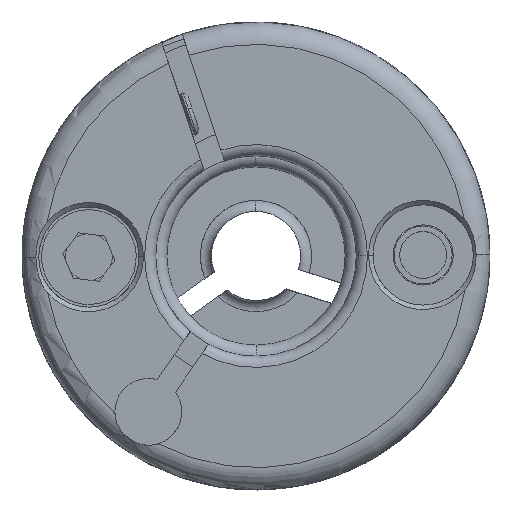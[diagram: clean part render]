
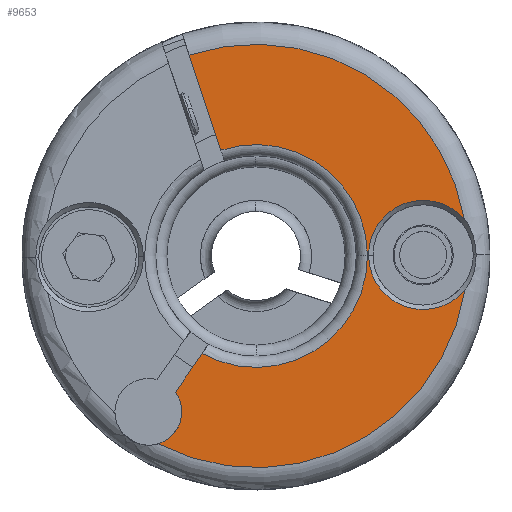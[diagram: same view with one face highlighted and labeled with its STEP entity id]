
A CAD part, front view. The second image highlights one B-rep face of the part: STEP entity #9653.
In plain terms, the highlighted planar face has unit normal (0, -1, 0).
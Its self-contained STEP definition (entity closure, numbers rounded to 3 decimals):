
#199 = CARTESIAN_POINT ( 'NONE',  ( -8.531, -13.313, -2.29 ) ) ;
#200 = CARTESIAN_POINT ( 'NONE',  ( -9.731, -13.313, -4.026 ) ) ;
#1130 = CIRCLE ( 'NONE', #1157, 2.45 ) ;
#1135 = DIRECTION ( 'NONE',  ( 0.568, 0., 0.823 ) ) ;
#1136 = VECTOR ( 'NONE', #1135, 1000. ) ;
#1137 = CARTESIAN_POINT ( 'NONE',  ( -14.016, -13.313, -10.229 ) ) ;
#1138 = LINE ( 'NONE', #1137, #1136 ) ;
#1139 = DIRECTION ( 'NONE',  ( -0.315, 0., 0.949 ) ) ;
#1140 = VECTOR ( 'NONE', #1139, 1000. ) ;
#1141 = CARTESIAN_POINT ( 'NONE',  ( -1.946, -13.313, -10.471 ) ) ;
#1142 = LINE ( 'NONE', #1141, #1140 ) ;
#1143 = DIRECTION ( 'NONE',  ( 1., 0., 0.006 ) ) ;
#1144 = DIRECTION ( 'NONE',  ( 0., 1., 0. ) ) ;
#1145 = CARTESIAN_POINT ( 'NONE',  ( -10.946, -13.313, -4.906 ) ) ;
#1146 = AXIS2_PLACEMENT_3D ( 'NONE', #1145, #1144, #1143 ) ;
#1147 = CIRCLE ( 'NONE', #1146, 1.5 ) ;
#1148 = DIRECTION ( 'NONE',  ( 1., 0., 0.006 ) ) ;
#1149 = DIRECTION ( 'NONE',  ( 0., 1., 0. ) ) ;
#1150 = CARTESIAN_POINT ( 'NONE',  ( -6.114, -13.313, 2.088 ) ) ;
#1151 = AXIS2_PLACEMENT_3D ( 'NONE', #1150, #1149, #1148 ) ;
#1152 = PLANE ( 'NONE',  #1151 ) ;
#1153 = FACE_OUTER_BOUND ( 'NONE', #9654, .T. ) ;
#1154 = DIRECTION ( 'NONE',  ( 1., 0., 0.006 ) ) ;
#1155 = DIRECTION ( 'NONE',  ( 0., 1., 0. ) ) ;
#1156 = CARTESIAN_POINT ( 'NONE',  ( 1.386, -13.313, 2.135 ) ) ;
#1157 = AXIS2_PLACEMENT_3D ( 'NONE', #1156, #1155, #1154 ) ;
#1230 = DIRECTION ( 'NONE',  ( 1., 0., 0.006 ) ) ;
#1231 = DIRECTION ( 'NONE',  ( 0., 1., 0. ) ) ;
#1232 = CARTESIAN_POINT ( 'NONE',  ( -6.114, -13.313, 2.088 ) ) ;
#1233 = AXIS2_PLACEMENT_3D ( 'NONE', #1232, #1231, #1230 ) ;
#1234 = CIRCLE ( 'NONE', #1233, 5. ) ;
#8150 = EDGE_CURVE ( 'NONE', #8271, #8278, #18459, .T. ) ;
#8161 = EDGE_CURVE ( 'NONE', #8162, #8271, #18438, .T. ) ;
#8162 = VERTEX_POINT ( 'NONE', #18433 ) ;
#8214 = VERTEX_POINT ( 'NONE', #16917 ) ;
#8216 = EDGE_CURVE ( 'NONE', #8217, #8214, #16914, .T. ) ;
#8217 = VERTEX_POINT ( 'NONE', #16906 ) ;
#8271 = VERTEX_POINT ( 'NONE', #16842 ) ;
#8278 = VERTEX_POINT ( 'NONE', #16750 ) ;
#8287 = VERTEX_POINT ( 'NONE', #16724 ) ;
#8289 = EDGE_CURVE ( 'NONE', #8290, #8287, #16719, .T. ) ;
#8290 = VERTEX_POINT ( 'NONE', #16711 ) ;
#8330 = VERTEX_POINT ( 'NONE', #18056 ) ;
#8332 = EDGE_CURVE ( 'NONE', #8214, #8330, #18165, .T. ) ;
#9235 = VERTEX_POINT ( 'NONE', #200 ) ;
#9236 = VERTEX_POINT ( 'NONE', #199 ) ;
#9651 = EDGE_CURVE ( 'NONE', #8330, #8162, #1130, .T. ) ;
#9653 = ADVANCED_FACE ( 'NONE', ( #1153 ), #1152, .F. ) ;
#9654 = EDGE_LOOP ( 'NONE', ( #9655, #9657, #9658, #9659, #9660, #9661, #9662, #9664, #9665, #13771 ) ) ;
#9655 = ORIENTED_EDGE ( 'NONE', *, *, #9656, .T. ) ;
#9656 = EDGE_CURVE ( 'NONE', #9235, #8217, #1147, .T. ) ;
#9657 = ORIENTED_EDGE ( 'NONE', *, *, #8216, .T. ) ;
#9658 = ORIENTED_EDGE ( 'NONE', *, *, #8332, .T. ) ;
#9659 = ORIENTED_EDGE ( 'NONE', *, *, #9651, .T. ) ;
#9660 = ORIENTED_EDGE ( 'NONE', *, *, #8161, .T. ) ;
#9661 = ORIENTED_EDGE ( 'NONE', *, *, #8150, .T. ) ;
#9662 = ORIENTED_EDGE ( 'NONE', *, *, #9663, .F. ) ;
#9663 = EDGE_CURVE ( 'NONE', #8290, #8278, #1142, .T. ) ;
#9664 = ORIENTED_EDGE ( 'NONE', *, *, #8289, .T. ) ;
#9665 = ORIENTED_EDGE ( 'NONE', *, *, #9712, .T. ) ;
#9667 = EDGE_CURVE ( 'NONE', #9235, #9236, #1138, .T. ) ;
#9712 = EDGE_CURVE ( 'NONE', #8287, #9236, #1234, .T. ) ;
#13771 = ORIENTED_EDGE ( 'NONE', *, *, #9667, .F. ) ;
#16711 = CARTESIAN_POINT ( 'NONE',  ( -7.689, -13.313, 6.833 ) ) ;
#16714 = DIRECTION ( 'NONE',  ( 1., 0., 0.006 ) ) ;
#16715 = DIRECTION ( 'NONE',  ( 0., 1., 0. ) ) ;
#16717 = CARTESIAN_POINT ( 'NONE',  ( -6.114, -13.313, 2.088 ) ) ;
#16718 = AXIS2_PLACEMENT_3D ( 'NONE', #16717, #16715, #16714 ) ;
#16719 = CIRCLE ( 'NONE', #16718, 5. ) ;
#16724 = CARTESIAN_POINT ( 'NONE',  ( -1.114, -13.313, 2.119 ) ) ;
#16750 = CARTESIAN_POINT ( 'NONE',  ( -9.106, -13.313, 11.104 ) ) ;
#16842 = CARTESIAN_POINT ( 'NONE',  ( 3.242, -13.313, 3.733 ) ) ;
#16906 = CARTESIAN_POINT ( 'NONE',  ( -9.446, -13.313, -4.896 ) ) ;
#16907 = DIRECTION ( 'NONE',  ( 1., 0., 0.006 ) ) ;
#16909 = DIRECTION ( 'NONE',  ( 0., 1., 0. ) ) ;
#16910 = CARTESIAN_POINT ( 'NONE',  ( -10.946, -13.313, -4.906 ) ) ;
#16912 = AXIS2_PLACEMENT_3D ( 'NONE', #16910, #16909, #16907 ) ;
#16914 = CIRCLE ( 'NONE', #16912, 1.5 ) ;
#16917 = CARTESIAN_POINT ( 'NONE',  ( -10.502, -13.313, -6.339 ) ) ;
#18056 = CARTESIAN_POINT ( 'NONE',  ( 3.262, -13.313, 0.559 ) ) ;
#18058 = CARTESIAN_POINT ( 'NONE',  ( -6.114, -13.313, 2.088 ) ) ;
#18155 = DIRECTION ( 'NONE',  ( 1., 0., 0.006 ) ) ;
#18156 = DIRECTION ( 'NONE',  ( 0., -1., 0. ) ) ;
#18157 = AXIS2_PLACEMENT_3D ( 'NONE', #18058, #18156, #18155 ) ;
#18165 = CIRCLE ( 'NONE', #18157, 9.5 ) ;
#18433 = CARTESIAN_POINT ( 'NONE',  ( -1.064, -13.313, 2.119 ) ) ;
#18434 = DIRECTION ( 'NONE',  ( 1., 0., 0.006 ) ) ;
#18435 = DIRECTION ( 'NONE',  ( 0., 1., 0. ) ) ;
#18436 = CARTESIAN_POINT ( 'NONE',  ( 1.386, -13.313, 2.135 ) ) ;
#18437 = AXIS2_PLACEMENT_3D ( 'NONE', #18436, #18435, #18434 ) ;
#18438 = CIRCLE ( 'NONE', #18437, 2.45 ) ;
#18456 = DIRECTION ( 'NONE',  ( 1., 0., 0.006 ) ) ;
#18457 = DIRECTION ( 'NONE',  ( 0., -1., 0. ) ) ;
#18458 = AXIS2_PLACEMENT_3D ( 'NONE', #18551, #18457, #18456 ) ;
#18459 = CIRCLE ( 'NONE', #18458, 9.5 ) ;
#18551 = CARTESIAN_POINT ( 'NONE',  ( -6.114, -13.313, 2.088 ) ) ;
